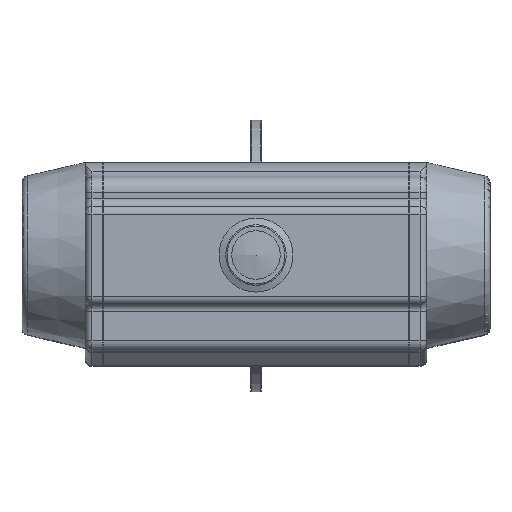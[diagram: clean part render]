
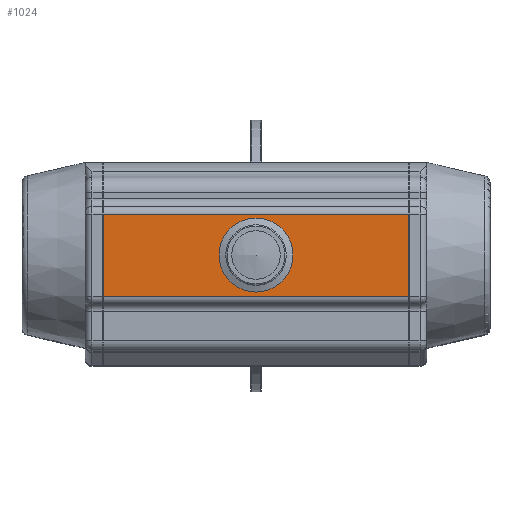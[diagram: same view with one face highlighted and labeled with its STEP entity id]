
A CAD part, top view. The second image highlights one B-rep face of the part: STEP entity #1024.
In plain terms, the highlighted planar face has unit normal (0, 0, 1).
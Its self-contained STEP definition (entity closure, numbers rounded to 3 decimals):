
#1024 = ADVANCED_FACE( '', ( #2340, #2341 ), #2342, .T. );
#2340 = FACE_BOUND( '', #4256, .T. );
#2341 = FACE_OUTER_BOUND( '', #4257, .T. );
#2342 = PLANE( '', #4258 );
#4256 = EDGE_LOOP( '', ( #8077 ) );
#4257 = EDGE_LOOP( '', ( #8078, #8079, #8080, #8081 ) );
#4258 = AXIS2_PLACEMENT_3D( '', #8082, #8083, #8084 );
#8077 = ORIENTED_EDGE( '', *, *, #11726, .F. );
#8078 = ORIENTED_EDGE( '', *, *, #11318, .F. );
#8079 = ORIENTED_EDGE( '', *, *, #12036, .F. );
#8080 = ORIENTED_EDGE( '', *, *, #12178, .T. );
#8081 = ORIENTED_EDGE( '', *, *, #11462, .T. );
#8082 = CARTESIAN_POINT( '', ( 113.5, -30.5, 79. ) );
#8083 = DIRECTION( '', ( 0., 0., 1. ) );
#8084 = DIRECTION( '', ( 1., 0., 0. ) );
#11318 = EDGE_CURVE( '', #13226, #13228, #13229, .T. );
#11462 = EDGE_CURVE( '', #13477, #13228, #13478, .T. );
#11726 = EDGE_CURVE( '', #13913, #13913, #13914, .T. );
#12036 = EDGE_CURVE( '', #14386, #13226, #14388, .T. );
#12178 = EDGE_CURVE( '', #14386, #13477, #14588, .T. );
#13226 = VERTEX_POINT( '', #16125 );
#13228 = VERTEX_POINT( '', #16127 );
#13229 = LINE( '', #16128, #16129 );
#13477 = VERTEX_POINT( '', #16556 );
#13478 = LINE( '', #16557, #16558 );
#13913 = VERTEX_POINT( '', #18280 );
#13914 = CIRCLE( '', #18281, 27.5 );
#14386 = VERTEX_POINT( '', #19436 );
#14388 = LINE( '', #19438, #19439 );
#14588 = LINE( '', #20041, #20042 );
#16125 = CARTESIAN_POINT( '', ( -113.5, -30.5, 79. ) );
#16127 = CARTESIAN_POINT( '', ( -113.5, 30.5, 79. ) );
#16128 = CARTESIAN_POINT( '', ( -113.5, -30.5, 79. ) );
#16129 = VECTOR( '', #23122, 1000. );
#16556 = CARTESIAN_POINT( '', ( 113.5, 30.5, 79. ) );
#16557 = CARTESIAN_POINT( '', ( 113.5, 30.5, 79. ) );
#16558 = VECTOR( '', #23290, 1000. );
#18280 = CARTESIAN_POINT( '', ( 27.5, 0., 79. ) );
#18281 = AXIS2_PLACEMENT_3D( '', #23533, #23534, #23535 );
#19436 = CARTESIAN_POINT( '', ( 113.5, -30.5, 79. ) );
#19438 = CARTESIAN_POINT( '', ( 113.5, -30.5, 79. ) );
#19439 = VECTOR( '', #23866, 1000. );
#20041 = CARTESIAN_POINT( '', ( 113.5, -30.5, 79. ) );
#20042 = VECTOR( '', #24014, 1000. );
#23122 = DIRECTION( '', ( 0., 1., 0. ) );
#23290 = DIRECTION( '', ( -1., 0., 0. ) );
#23533 = CARTESIAN_POINT( '', ( 0., 0., 79. ) );
#23534 = DIRECTION( '', ( 0., 0., 1. ) );
#23535 = DIRECTION( '', ( 1., 0., 0. ) );
#23866 = DIRECTION( '', ( -1., 0., 0. ) );
#24014 = DIRECTION( '', ( 0., 1., 0. ) );
